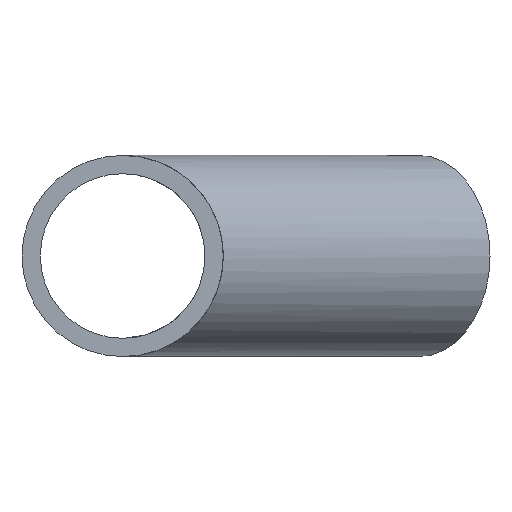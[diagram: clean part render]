
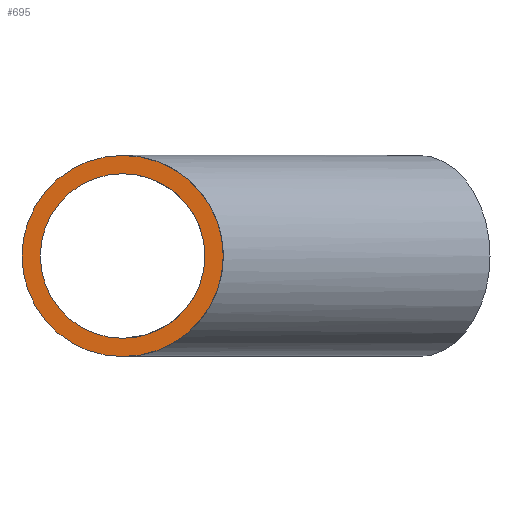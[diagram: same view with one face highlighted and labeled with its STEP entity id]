
A CAD part, front view. The second image highlights one B-rep face of the part: STEP entity #695.
In plain terms, the highlighted planar face has unit normal (0, -1, 0).
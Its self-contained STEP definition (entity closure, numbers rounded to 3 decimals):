
#301=CARTESIAN_POINT('',(-45.,-131.,0.));
#302=VERTEX_POINT('',#301);
#309=CARTESIAN_POINT('',(0.,-131.,0.));
#310=DIRECTION('',(0.,1.,0.));
#311=DIRECTION('',(1.,0.,0.));
#312=AXIS2_PLACEMENT_3D('',#309,#310,#311);
#313=CIRCLE('',#312,45.);
#314=EDGE_CURVE('',#302,#302,#313,.T.);
#633=CARTESIAN_POINT('',(-55.,-131.,0.));
#634=VERTEX_POINT('',#633);
#641=CARTESIAN_POINT('',(55.,-131.,0.));
#642=VERTEX_POINT('',#641);
#643=CARTESIAN_POINT('',(0.,-131.,0.));
#644=DIRECTION('',(0.,1.,0.));
#645=DIRECTION('',(1.,0.,0.));
#646=AXIS2_PLACEMENT_3D('',#643,#644,#645);
#647=CIRCLE('',#646,55.);
#648=EDGE_CURVE('',#634,#642,#647,.T.);
#650=EDGE_CURVE('',#642,#634,#647,.T.);
#683=ORIENTED_EDGE('',*,*,#650,.F.);
#684=ORIENTED_EDGE('',*,*,#648,.F.);
#685=EDGE_LOOP('',(#683,#684));
#686=FACE_OUTER_BOUND('',#685,.T.);
#687=ORIENTED_EDGE('',*,*,#314,.T.);
#688=EDGE_LOOP('',(#687));
#689=FACE_BOUND('',#688,.T.);
#690=CARTESIAN_POINT('',(0.,-131.,0.));
#691=DIRECTION('',(0.,1.,0.));
#692=DIRECTION('',(0.,0.,1.));
#693=AXIS2_PLACEMENT_3D('',#690,#691,#692);
#694=PLANE('',#693);
#695=ADVANCED_FACE('',(#686,#689),#694,.F.);
